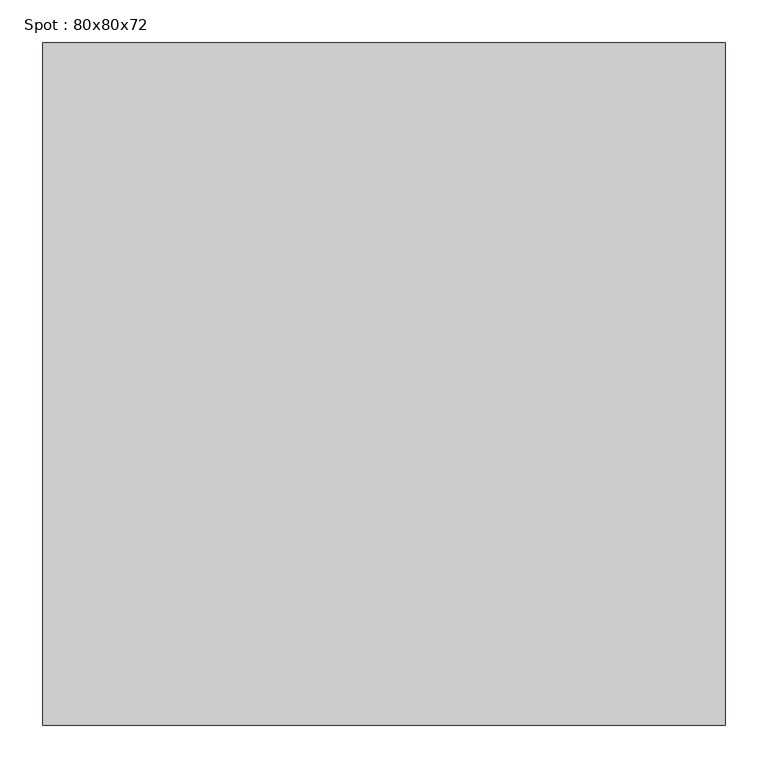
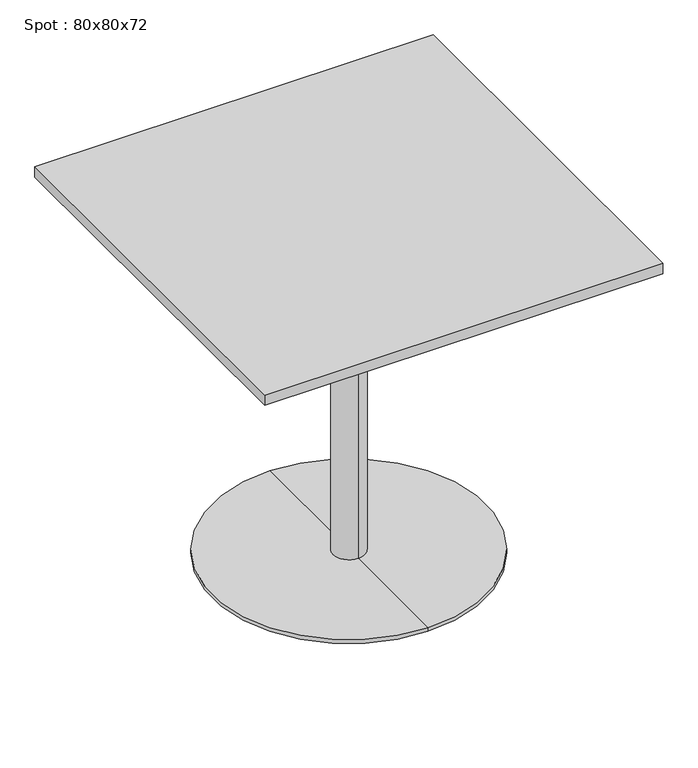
"""IFC4 building model written with IfcOpenShell, lengths in millimetres: furniture geometry, Spot : 80x80x72."""

from ifc_helpers import new_model, si_unit, frame, origin, place, context, project, spatial, polyline, circle_curve, outline, extrude, source, transform, mapped, element, save
from ifc_brep_helpers import plane_surface, cylinder_surface, revolved_surface, advanced_brep


def spot_80x80x72_5e2f6118(model_context):
    return source(origin(), model_context, "Body", "SolidModel", [
        extrude(outline(polyline([(400.0, 400.0), (400.0, -400.0), (-400.0, -400.0), (-400.0, 400.0), (400.0, 400.0)])), frame((0.0, 0.0, 698.0), z_axis=(0.0, 0.0, 1.0), x_axis=(1.0, 0.0, 0.0)), (0.0, 0.0, 1.0), 22.0),
        advanced_brep(
        [(0.0, 32.0, 10.0), (0.0, -32.0, 10.0), (0.0, -32.0, 667.406916), (0.0, 32.0, 667.406916), (0.0, 275.0, 10.0), (0.0, -275.0, 10.0), (0.0, 275.0, 2.0), (0.0, -275.0, 2.0), (0.0, 0.0, 2.0), (0.0, 150.0, 698.0), (0.0, -150.0, 698.0), (0.0, 0.0, 698.0), (0.0, 150.0, 686.7213673), (0.0, -150.0, 686.7213673)],
        [
            (0, 1, circle_curve(frame((0.0, 0.0, 10.0), z_axis=(0.0, 0.0, 1.0), x_axis=(0.0, -1.0, 0.0)), 32.0)),
            (1, 2),
            (2, 3, circle_curve(frame((0.0, 0.0, 667.406916), z_axis=(0.0, 0.0, -1.0), x_axis=(0.0, -1.0, 0.0)), 32.0)),
            (3, 0),
            (1, 0, circle_curve(frame((0.0, 0.0, 10.0), z_axis=(0.0, 0.0, 1.0), x_axis=(0.0, -1.0, 0.0)), 32.0)),
            (3, 2, circle_curve(frame((0.0, 0.0, 667.406916), z_axis=(0.0, 0.0, -1.0), x_axis=(0.0, -1.0, 0.0)), 32.0)),
            (4, 5, circle_curve(frame((0.0, 0.0, 10.0), z_axis=(0.0, 0.0, 1.0), x_axis=(0.0, -1.0, 0.0)), 275.0)),
            (5, 1),
            (0, 4),
            (5, 4, circle_curve(frame((0.0, 0.0, 10.0), z_axis=(0.0, 0.0, 1.0), x_axis=(0.0, -1.0, 0.0)), 275.0)),
            (6, 7, circle_curve(frame((0.0, 0.0, 2.0), z_axis=(0.0, 0.0, 1.0), x_axis=(0.0, -1.0, 0.0)), 275.0)),
            (7, 5),
            (4, 6),
            (7, 6, circle_curve(frame((0.0, 0.0, 2.0), z_axis=(0.0, 0.0, 1.0), x_axis=(0.0, -1.0, 0.0)), 275.0)),
            (8, 7),
            (6, 8),
            (9, 10, circle_curve(frame((0.0, 0.0, 698.0), z_axis=(0.0, 0.0, 1.0), x_axis=(0.0, -1.0, 0.0)), 150.0)),
            (10, 11),
            (11, 9),
            (10, 9, circle_curve(frame((0.0, 0.0, 698.0), z_axis=(0.0, 0.0, 1.0), x_axis=(0.0, -1.0, 0.0)), 150.0)),
            (12, 13, circle_curve(frame((0.0, 0.0, 686.7213673), z_axis=(0.0, 0.0, 1.0), x_axis=(0.0, -1.0, 0.0)), 150.0)),
            (13, 10),
            (9, 12),
            (13, 12, circle_curve(frame((0.0, 0.0, 686.7213673), z_axis=(0.0, 0.0, 1.0), x_axis=(0.0, -1.0, 0.0)), 150.0)),
            (2, 13),
            (12, 3),
        ],
        [
            cylinder_surface(frame((0.0, 0.0, 1060.0), z_axis=(0.0, 0.0, -1.0), x_axis=(0.0, -1.0, 0.0)), 32.0),
            plane_surface(frame((0.0, 0.0, 10.0), z_axis=(0.0, 0.0, 1.0), x_axis=(0.0, -1.0, 0.0))),
            cylinder_surface(frame((0.0, 0.0, 1060.0), z_axis=(0.0, 0.0, -1.0), x_axis=(0.0, -1.0, 0.0)), 275.0),
            plane_surface(frame((0.0, 0.0, 2.0), z_axis=(0.0, 0.0, -1.0), x_axis=(0.0, -1.0, 0.0))),
            plane_surface(frame((0.0, 0.0, 698.0), z_axis=(0.0, 0.0, 1.0), x_axis=(0.0, -1.0, 0.0))),
            cylinder_surface(frame((0.0, 0.0, 1060.0), z_axis=(0.0, 0.0, -1.0), x_axis=(0.0, -1.0, 0.0)), 150.0),
            revolved_surface(polyline([(0.0, -150.0, 686.7213673), (0.0, -32.0, 667.406916)]), (0.0, 0.0, 1060.0), (0.0, 0.0, -1.0)),
        ],
        [
            (0, [[1, 2, 3, 4]]),
            (0, [[5, -4, 6, -2]]),
            (1, [[7, 8, -1, 9]]),
            (1, [[10, -9, -5, -8]]),
            (2, [[11, 12, -7, 13]]),
            (2, [[14, -13, -10, -12]]),
            (3, [[15, -11, 16]]),
            (3, [[-16, -14, -15]]),
            (4, [[17, 18, 19]]),
            (4, [[20, -19, -18]]),
            (5, [[21, 22, -17, 23]]),
            (5, [[24, -23, -20, -22]]),
            (6, [[-3, 25, -21, 26]]),
            (6, [[-6, -26, -24, -25]]),
        ],
    ),
    ])


if __name__ == "__main__":
    model = new_model("IFC4")
    model_context = context("Model", 3, world=origin())
    ifc_project = project(units=[si_unit("LENGTHUNIT", "METRE", prefix="MILLI")], contexts=[model_context])
    site = spatial("IfcSite", under=ifc_project)
    building = spatial("IfcBuilding", under=site)
    placement = place(None, origin())
    spot_80x80x72_shape = spot_80x80x72_5e2f6118(model_context)
    element("IfcFurniture", 1, ObjectType="Spot : 80x80x72", at=placement, inside=building, context=model_context, shape_type="MappedRepresentation", body=[
        mapped(spot_80x80x72_shape, transform((0.0, 0.0, 0.0), x_axis=(1.0, 0.0, 0.0), y_axis=(0.0, 1.0, 0.0), z_axis=(0.0, 0.0, 1.0))),
    ])
    save(model, "model.ifc")
